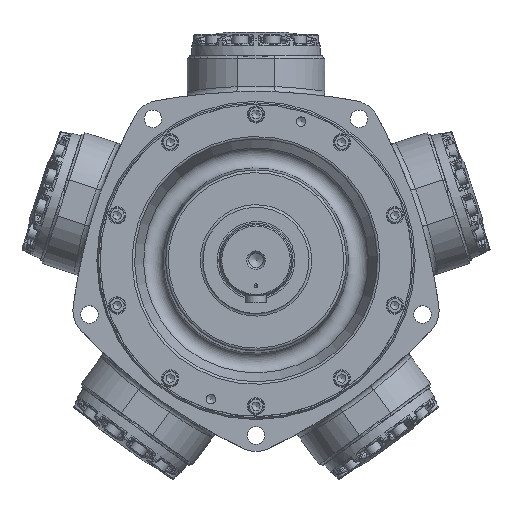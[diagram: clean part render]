
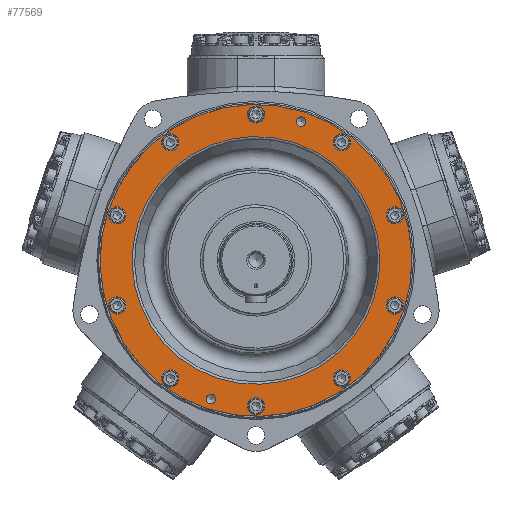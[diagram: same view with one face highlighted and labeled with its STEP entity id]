
A CAD part, top view. The second image highlights one B-rep face of the part: STEP entity #77569.
In plain terms, the highlighted planar face has unit normal (0, 0, 1).
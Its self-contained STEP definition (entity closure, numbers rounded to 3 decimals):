
#8019=FACE_BOUND('',#23868,.T.);
#8020=FACE_BOUND('',#23869,.T.);
#8021=FACE_BOUND('',#23870,.T.);
#8022=FACE_BOUND('',#23871,.T.);
#8023=FACE_BOUND('',#23872,.T.);
#8024=FACE_BOUND('',#23873,.T.);
#8025=FACE_BOUND('',#23874,.T.);
#8026=FACE_BOUND('',#23875,.T.);
#8027=FACE_BOUND('',#23876,.T.);
#8028=FACE_BOUND('',#23877,.T.);
#8029=FACE_BOUND('',#23878,.T.);
#8030=FACE_BOUND('',#23879,.T.);
#8031=FACE_BOUND('',#23880,.T.);
#15717=PLANE('',#83089);
#19013=FACE_OUTER_BOUND('',#23867,.T.);
#23867=EDGE_LOOP('',(#59896));
#23868=EDGE_LOOP('',(#59897));
#23869=EDGE_LOOP('',(#59898));
#23870=EDGE_LOOP('',(#59899));
#23871=EDGE_LOOP('',(#59900));
#23872=EDGE_LOOP('',(#59901));
#23873=EDGE_LOOP('',(#59902));
#23874=EDGE_LOOP('',(#59903));
#23875=EDGE_LOOP('',(#59904));
#23876=EDGE_LOOP('',(#59905));
#23877=EDGE_LOOP('',(#59906));
#23878=EDGE_LOOP('',(#59907));
#23879=EDGE_LOOP('',(#59908));
#23880=EDGE_LOOP('',(#59909));
#27684=CIRCLE('',#83058,186.628);
#27686=CIRCLE('',#83062,5.664);
#27687=CIRCLE('',#83064,5.664);
#27689=CIRCLE('',#83067,10.319);
#27690=CIRCLE('',#83069,10.319);
#27692=CIRCLE('',#83072,10.319);
#27693=CIRCLE('',#83074,10.319);
#27695=CIRCLE('',#83077,10.319);
#27696=CIRCLE('',#83079,10.319);
#27697=CIRCLE('',#83081,10.319);
#27698=CIRCLE('',#83083,10.319);
#27700=CIRCLE('',#83086,10.319);
#27701=CIRCLE('',#83088,10.319);
#27702=CIRCLE('',#83090,148.273);
#32895=VERTEX_POINT('',#167144);
#32897=VERTEX_POINT('',#167152);
#32898=VERTEX_POINT('',#167156);
#32900=VERTEX_POINT('',#167162);
#32901=VERTEX_POINT('',#167166);
#32903=VERTEX_POINT('',#167172);
#32904=VERTEX_POINT('',#167176);
#32906=VERTEX_POINT('',#167182);
#32907=VERTEX_POINT('',#167186);
#32908=VERTEX_POINT('',#167190);
#32909=VERTEX_POINT('',#167194);
#32911=VERTEX_POINT('',#167200);
#32912=VERTEX_POINT('',#167204);
#32913=VERTEX_POINT('',#167208);
#42265=EDGE_CURVE('',#32895,#32895,#27684,.T.);
#42269=EDGE_CURVE('',#32897,#32897,#27686,.T.);
#42271=EDGE_CURVE('',#32898,#32898,#27687,.T.);
#42275=EDGE_CURVE('',#32900,#32900,#27689,.T.);
#42277=EDGE_CURVE('',#32901,#32901,#27690,.T.);
#42280=EDGE_CURVE('',#32903,#32903,#27692,.T.);
#42282=EDGE_CURVE('',#32904,#32904,#27693,.T.);
#42285=EDGE_CURVE('',#32906,#32906,#27695,.T.);
#42287=EDGE_CURVE('',#32907,#32907,#27696,.T.);
#42289=EDGE_CURVE('',#32908,#32908,#27697,.T.);
#42291=EDGE_CURVE('',#32909,#32909,#27698,.T.);
#42294=EDGE_CURVE('',#32911,#32911,#27700,.T.);
#42296=EDGE_CURVE('',#32912,#32912,#27701,.T.);
#42297=EDGE_CURVE('',#32913,#32913,#27702,.T.);
#59896=ORIENTED_EDGE('',*,*,#42265,.T.);
#59897=ORIENTED_EDGE('',*,*,#42269,.T.);
#59898=ORIENTED_EDGE('',*,*,#42271,.T.);
#59899=ORIENTED_EDGE('',*,*,#42275,.T.);
#59900=ORIENTED_EDGE('',*,*,#42277,.T.);
#59901=ORIENTED_EDGE('',*,*,#42280,.T.);
#59902=ORIENTED_EDGE('',*,*,#42282,.T.);
#59903=ORIENTED_EDGE('',*,*,#42285,.T.);
#59904=ORIENTED_EDGE('',*,*,#42287,.T.);
#59905=ORIENTED_EDGE('',*,*,#42289,.T.);
#59906=ORIENTED_EDGE('',*,*,#42291,.T.);
#59907=ORIENTED_EDGE('',*,*,#42294,.T.);
#59908=ORIENTED_EDGE('',*,*,#42296,.T.);
#59909=ORIENTED_EDGE('',*,*,#42297,.F.);
#77569=ADVANCED_FACE('',(#19013,#8019,#8020,#8021,#8022,#8023,#8024,#8025,
#8026,#8027,#8028,#8029,#8030,#8031),#15717,.T.);
#83058=AXIS2_PLACEMENT_3D('',#167145,#94656,#94657);
#83062=AXIS2_PLACEMENT_3D('',#167153,#94666,#94667);
#83064=AXIS2_PLACEMENT_3D('',#167157,#94671,#94672);
#83067=AXIS2_PLACEMENT_3D('',#167164,#94679,#94680);
#83069=AXIS2_PLACEMENT_3D('',#167168,#94684,#94685);
#83072=AXIS2_PLACEMENT_3D('',#167174,#94691,#94692);
#83074=AXIS2_PLACEMENT_3D('',#167178,#94696,#94697);
#83077=AXIS2_PLACEMENT_3D('',#167184,#94703,#94704);
#83079=AXIS2_PLACEMENT_3D('',#167188,#94708,#94709);
#83081=AXIS2_PLACEMENT_3D('',#167192,#94713,#94714);
#83083=AXIS2_PLACEMENT_3D('',#167196,#94718,#94719);
#83086=AXIS2_PLACEMENT_3D('',#167202,#94725,#94726);
#83088=AXIS2_PLACEMENT_3D('',#167206,#94730,#94731);
#83089=AXIS2_PLACEMENT_3D('',#167207,#94732,#94733);
#83090=AXIS2_PLACEMENT_3D('',#167209,#94734,#94735);
#94656=DIRECTION('center_axis',(0.,0.,
1.));
#94657=DIRECTION('ref_axis',(0.309,0.951,0.));
#94666=DIRECTION('center_axis',(0.,0.,
-1.));
#94667=DIRECTION('ref_axis',(0.951,-0.309,0.));
#94671=DIRECTION('center_axis',(0.,0.,
-1.));
#94672=DIRECTION('ref_axis',(0.951,-0.309,0.));
#94679=DIRECTION('center_axis',(0.,0.,
-1.));
#94680=DIRECTION('ref_axis',(-0.588,0.809,0.));
#94684=DIRECTION('center_axis',(0.,0.,
-1.));
#94685=DIRECTION('ref_axis',(0.,1.,0.));
#94691=DIRECTION('center_axis',(0.,0.,
-1.));
#94692=DIRECTION('ref_axis',(0.588,0.809,0.));
#94696=DIRECTION('center_axis',(0.,0.,
-1.));
#94697=DIRECTION('ref_axis',(0.951,0.309,0.));
#94703=DIRECTION('center_axis',(0.,0.,
-1.));
#94704=DIRECTION('ref_axis',(0.951,-0.309,0.));
#94708=DIRECTION('center_axis',(0.,0.,
-1.));
#94709=DIRECTION('ref_axis',(0.588,-0.809,0.));
#94713=DIRECTION('center_axis',(0.,0.,
-1.));
#94714=DIRECTION('ref_axis',(0.,-1.,0.));
#94718=DIRECTION('center_axis',(0.,0.,
-1.));
#94719=DIRECTION('ref_axis',(-0.588,-0.809,0.));
#94725=DIRECTION('center_axis',(0.,0.,
-1.));
#94726=DIRECTION('ref_axis',(-0.951,-0.309,0.));
#94730=DIRECTION('center_axis',(0.,0.,
-1.));
#94731=DIRECTION('ref_axis',(-0.951,0.309,0.));
#94732=DIRECTION('center_axis',(0.,0.,
1.));
#94733=DIRECTION('ref_axis',(0.951,-0.309,0.));
#94734=DIRECTION('center_axis',(0.,0.,
1.));
#94735=DIRECTION('ref_axis',(-0.309,-0.951,0.));
#167144=CARTESIAN_POINT('',(-57.671,-177.493,119.254));
#167145=CARTESIAN_POINT('Origin',(0.,0.,
119.254));
#167152=CARTESIAN_POINT('',(48.575,167.829,119.254));
#167153=CARTESIAN_POINT('Origin',(53.962,166.078,119.254));
#167156=CARTESIAN_POINT('',(-59.349,-164.328,119.254));
#167157=CARTESIAN_POINT('Origin',(-53.962,-166.078,119.254));
#167162=CARTESIAN_POINT('',(108.707,-149.623,119.254));
#167164=CARTESIAN_POINT('Origin',(102.642,-141.275,119.254));
#167166=CARTESIAN_POINT('',(0.,-184.944,119.254));
#167168=CARTESIAN_POINT('Origin',(0.,-174.625,119.254));
#167172=CARTESIAN_POINT('',(-108.707,-149.623,119.254));
#167174=CARTESIAN_POINT('Origin',(-102.642,-141.275,119.254));
#167176=CARTESIAN_POINT('',(-175.892,-57.151,119.254));
#167178=CARTESIAN_POINT('Origin',(-166.078,-53.962,119.254));
#167182=CARTESIAN_POINT('',(-175.892,57.151,119.254));
#167184=CARTESIAN_POINT('Origin',(-166.078,53.962,119.254));
#167186=CARTESIAN_POINT('',(-108.707,149.623,119.254));
#167188=CARTESIAN_POINT('Origin',(-102.642,141.275,119.254));
#167190=CARTESIAN_POINT('',(0.,184.944,119.254));
#167192=CARTESIAN_POINT('Origin',(0.,174.625,119.254));
#167194=CARTESIAN_POINT('',(108.707,149.623,119.254));
#167196=CARTESIAN_POINT('Origin',(102.642,141.275,119.254));
#167200=CARTESIAN_POINT('',(175.892,57.151,119.254));
#167202=CARTESIAN_POINT('Origin',(166.078,53.962,119.254));
#167204=CARTESIAN_POINT('',(175.892,-57.151,119.254));
#167206=CARTESIAN_POINT('Origin',(166.078,-53.962,119.254));
#167207=CARTESIAN_POINT('Origin',(52.49,161.549,119.254));
#167208=CARTESIAN_POINT('',(-141.016,45.819,119.254));
#167209=CARTESIAN_POINT('Origin',(0.,0.,
119.254));
